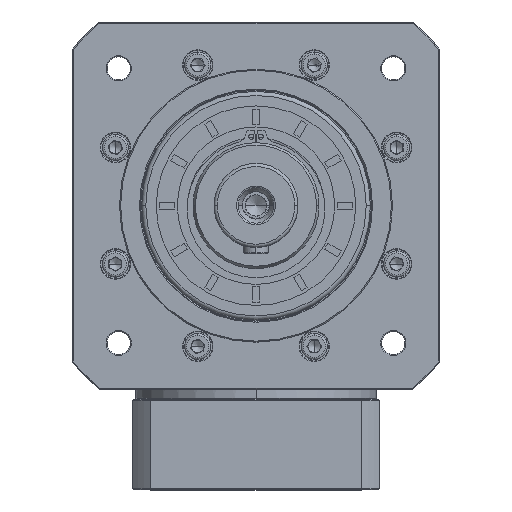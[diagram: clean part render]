
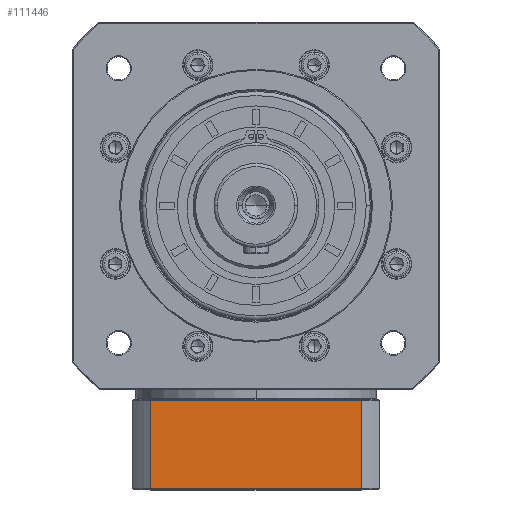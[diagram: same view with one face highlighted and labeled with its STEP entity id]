
A CAD part, top view. The second image highlights one B-rep face of the part: STEP entity #111446.
In plain terms, the highlighted planar face has unit normal (0, 0, 1).
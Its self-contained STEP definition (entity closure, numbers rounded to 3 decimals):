
#6910 = DIRECTION ( 'NONE',  ( 0., -1., 0. ) ) ;
#10799 = EDGE_CURVE ( 'NONE', #115020, #67266, #136534, .T. ) ;
#16502 = PLANE ( 'NONE',  #62920 ) ;
#29425 = ORIENTED_EDGE ( 'NONE', *, *, #10799, .F. ) ;
#31799 = DIRECTION ( 'NONE',  ( 1., 0., 0. ) ) ;
#41663 = CARTESIAN_POINT ( 'NONE',  ( -241.244, -162.765, 113.326 ) ) ;
#42109 = EDGE_CURVE ( 'NONE', #95612, #136400, #155351, .T. ) ;
#43182 = EDGE_CURVE ( 'NONE', #67266, #95612, #107788, .T. ) ;
#45819 = EDGE_CURVE ( 'NONE', #136400, #115020, #75079, .T. ) ;
#51825 = CARTESIAN_POINT ( 'NONE',  ( -241.244, -162.265, 113.326 ) ) ;
#52185 = ORIENTED_EDGE ( 'NONE', *, *, #42109, .F. ) ;
#60009 = CARTESIAN_POINT ( 'NONE',  ( -131.992, -162.265, 113.326 ) ) ;
#62920 = AXIS2_PLACEMENT_3D ( 'NONE', #41663, #78688, #115817 ) ;
#67266 = VERTEX_POINT ( 'NONE', #152733 ) ;
#70156 = CARTESIAN_POINT ( 'NONE',  ( -131.992, 101.63, 113.326 ) ) ;
#75079 = LINE ( 'NONE', #84198, #106434 ) ;
#78688 = DIRECTION ( 'NONE',  ( 0., 0., -1. ) ) ;
#84198 = CARTESIAN_POINT ( 'NONE',  ( -232.496, -162.765, 113.326 ) ) ;
#90968 = DIRECTION ( 'NONE',  ( -1., 0., 0. ) ) ;
#95612 = VERTEX_POINT ( 'NONE', #60009 ) ;
#106434 = VECTOR ( 'NONE', #121328, 1000. ) ;
#107647 = CARTESIAN_POINT ( 'NONE',  ( -241.244, -120.265, 113.326 ) ) ;
#107788 = LINE ( 'NONE', #70156, #119537 ) ;
#111446 = ADVANCED_FACE ( 'NONE', ( #154743 ), #16502, .F. ) ;
#115020 = VERTEX_POINT ( 'NONE', #137132 ) ;
#115817 = DIRECTION ( 'NONE',  ( -1., 0., 0. ) ) ;
#119537 = VECTOR ( 'NONE', #6910, 1000. ) ;
#121328 = DIRECTION ( 'NONE',  ( 0., 1., 0. ) ) ;
#122217 = VECTOR ( 'NONE', #90968, 1000. ) ;
#123803 = CARTESIAN_POINT ( 'NONE',  ( -232.496, -162.265, 113.326 ) ) ;
#125465 = ORIENTED_EDGE ( 'NONE', *, *, #43182, .F. ) ;
#136400 = VERTEX_POINT ( 'NONE', #123803 ) ;
#136515 = EDGE_LOOP ( 'NONE', ( #125465, #29425, #143401, #52185 ) ) ;
#136534 = LINE ( 'NONE', #107647, #146158 ) ;
#137132 = CARTESIAN_POINT ( 'NONE',  ( -232.496, -120.265, 113.326 ) ) ;
#143401 = ORIENTED_EDGE ( 'NONE', *, *, #45819, .F. ) ;
#146158 = VECTOR ( 'NONE', #31799, 1000. ) ;
#152733 = CARTESIAN_POINT ( 'NONE',  ( -131.992, -120.265, 113.326 ) ) ;
#154743 = FACE_OUTER_BOUND ( 'NONE', #136515, .T. ) ;
#155351 = LINE ( 'NONE', #51825, #122217 ) ;
